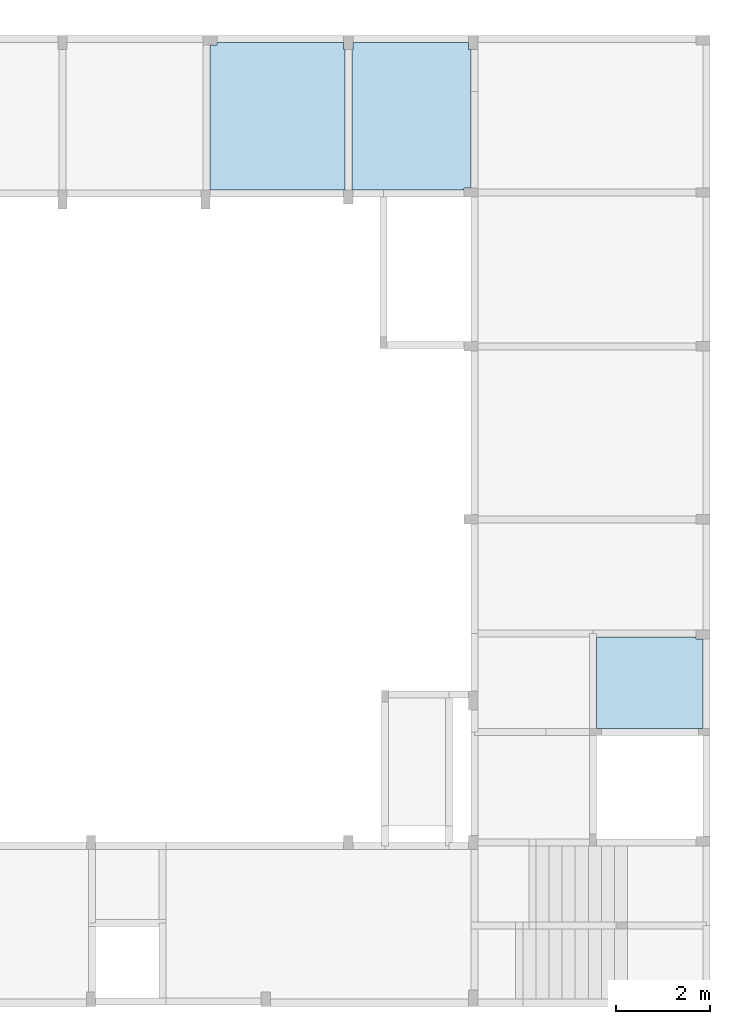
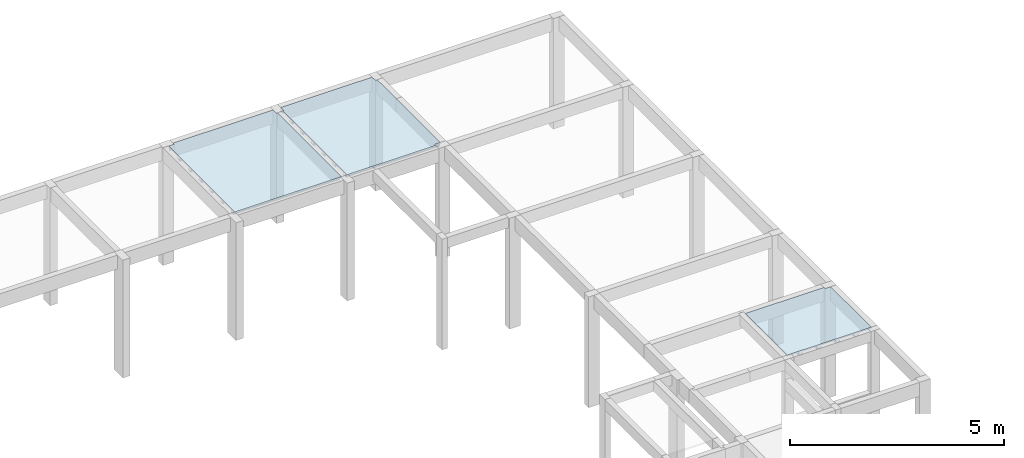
# One storey, part 8 of 11: 3 slabs.
"""IFC4 building model written with IfcOpenShell, lengths in centimetres."""

from ifc_helpers import new_model, si_unit, derived_unit, frame, origin_with_axes, place, context, project, spatial, polyline, outline, extrude, faceted_brep, material, element, save


model = new_model("IFC4")

# Units and contexts
model_context = context("Model", 3, precision=1e-05, world=origin_with_axes(), identifier="Body")
ifc_project = project(units=[si_unit("LENGTHUNIT", "METRE", prefix="CENTI"), si_unit("VOLUMEUNIT", "CUBIC_METRE"), si_unit("AREAUNIT", "SQUARE_METRE"), si_unit("POWERUNIT", "WATT"), si_unit("LUMINOUSFLUXUNIT", "LUMEN"), si_unit("ELECTRICCURRENTUNIT", "AMPERE"), si_unit("PRESSUREUNIT", "PASCAL", prefix="KILO"), si_unit("MASSUNIT", "GRAM", prefix="KILO"), si_unit("PLANEANGLEUNIT", "RADIAN"), derived_unit("VOLUMETRICFLOWRATEUNIT", [(si_unit("LENGTHUNIT", "METRE"), 3), (si_unit("TIMEUNIT", "SECOND"), -1)])], contexts=[model_context])

# Site, building, storey
site_placement = place(None, origin_with_axes())
site = spatial("IfcSite", under=ifc_project, at=site_placement)
building_placement = place(site_placement, frame((0.0, 0.0, -295.0)))
building = spatial("IfcBuilding", under=site, at=building_placement)
placement_1 = place(building_placement, origin_with_axes())
placement_2 = place(placement_1, frame((0.0, 0.0, 101.0), z_axis=(0.0, 0.0, 1.0), x_axis=(1.0, 0.0, 0.0)))
placement_3 = place(placement_2, frame((0.0, 0.0, 204.0), z_axis=(0.0, 0.0, 1.0), x_axis=(1.0, 0.0, 0.0)))
storey_placement = place(placement_3, frame((0.0, 0.0, 292.0), z_axis=(0.0, 0.0, 1.0), x_axis=(1.0, 0.0, 0.0)))
storey = spatial("IfcBuildingStorey", under=building, at=storey_placement, Name="PAVTO 01", CompositionType="ELEMENT", Elevation=302.0)

# Slabs
ifc_material = material(Name="Concreto")
slab_1_placement = place(storey_placement, frame((3092.255, -5277.085, 0.0), z_axis=(0.0, 0.0, 1.0), x_axis=(1.0, 0.0, 0.0)))
element("IfcSlab", 1, at=slab_1_placement, inside=storey, material=ifc_material, Name="L103", PredefinedType="FLOOR", context=model_context, shape_type="SolidModel", body=[
    extrude(outline(polyline([(143.974, 142.534), (141.475, 142.534), (141.475, 157.534), (-128.975, 157.534), (-128.974, 152.534), (-143.975, 152.534), (-143.974, -157.534), (143.975, -157.534), (143.974, 142.534), (143.974, 142.534)])), frame((0.0, 0.0, -4.0), z_axis=(0.0, 0.0, 1.0), x_axis=(1.0, 0.0, 0.0)), (0.0, 0.0, 1.0), 4.0),
    faceted_brep([(-143.9745, -140.0, -12.0), (143.9745, -140.0, -12.0), (143.9745, -150.0, -12.0), (-143.9745, -150.0, -12.0), (-143.9745, -150.0, -4.0), (143.9745, -150.0, -4.0), (143.9745, -140.0, -4.0), (-143.9745, -140.0, -4.0)], [[[0, 1, 2, 3]], [[4, 5, 6, 7]], [[4, 3, 5]], [[3, 2, 5]], [[5, 2, 6]], [[2, 1, 6]], [[6, 1, 7]], [[1, 0, 7]], [[7, 0, 4]], [[0, 3, 4]]]),
    faceted_brep([(-143.9745, -138.5, -12.0), (143.9745, -138.5, -12.0), (143.9745, -140.0, -12.0), (-143.9745, -140.0, -12.0), (-143.9745, -140.0, -9.0), (143.9745, -140.0, -9.0), (143.9745, -138.5, -9.0), (-143.9745, -138.5, -9.0)], [[[0, 1, 2, 3]], [[4, 5, 6, 7]], [[4, 3, 5]], [[3, 2, 5]], [[5, 2, 6]], [[2, 1, 6]], [[6, 1, 7]], [[1, 0, 7]], [[7, 0, 4]], [[0, 3, 4]]]),
    faceted_brep([(-143.9745, -150.0, -12.0), (143.9745, -150.0, -12.0), (143.9745, -151.5, -12.0), (-143.9745, -151.5, -12.0), (-143.9745, -151.5, -9.0), (143.9745, -151.5, -9.0), (143.9745, -150.0, -9.0), (-143.9745, -150.0, -9.0)], [[[0, 1, 2, 3]], [[4, 5, 6, 7]], [[4, 3, 5]], [[3, 2, 5]], [[5, 2, 6]], [[2, 1, 6]], [[6, 1, 7]], [[1, 0, 7]], [[7, 0, 4]], [[0, 3, 4]]]),
    faceted_brep([(-143.9745, -90.0, -12.0), (143.9745, -90.0, -12.0), (143.9745, -100.0, -12.0), (-143.9745, -100.0, -12.0), (-143.9745, -100.0, -4.0), (143.9745, -100.0, -4.0), (143.9745, -90.0, -4.0), (-143.9745, -90.0, -4.0)], [[[0, 1, 2, 3]], [[4, 5, 6, 7]], [[4, 3, 5]], [[3, 2, 5]], [[5, 2, 6]], [[2, 1, 6]], [[6, 1, 7]], [[1, 0, 7]], [[7, 0, 4]], [[0, 3, 4]]]),
    faceted_brep([(-143.9745, -88.5, -12.0), (143.9745, -88.5, -12.0), (143.9745, -90.0, -12.0), (-143.9745, -90.0, -12.0), (-143.9745, -90.0, -9.0), (143.9745, -90.0, -9.0), (143.9745, -88.5, -9.0), (-143.9745, -88.5, -9.0)], [[[0, 1, 2, 3]], [[4, 5, 6, 7]], [[4, 3, 5]], [[3, 2, 5]], [[5, 2, 6]], [[2, 1, 6]], [[6, 1, 7]], [[1, 0, 7]], [[7, 0, 4]], [[0, 3, 4]]]),
    faceted_brep([(-143.9745, -100.0, -12.0), (143.9745, -100.0, -12.0), (143.9745, -101.5, -12.0), (-143.9745, -101.5, -12.0), (-143.9745, -101.5, -9.0), (143.9745, -101.5, -9.0), (143.9745, -100.0, -9.0), (-143.9745, -100.0, -9.0)], [[[0, 1, 2, 3]], [[4, 5, 6, 7]], [[4, 3, 5]], [[3, 2, 5]], [[5, 2, 6]], [[2, 1, 6]], [[6, 1, 7]], [[1, 0, 7]], [[7, 0, 4]], [[0, 3, 4]]]),
    faceted_brep([(-143.9745, -40.0, -12.0), (143.9745, -40.0, -12.0), (143.9745, -50.0, -12.0), (-143.9745, -50.0, -12.0), (-143.9745, -50.0, -4.0), (143.9745, -50.0, -4.0), (143.9745, -40.0, -4.0), (-143.9745, -40.0, -4.0)], [[[0, 1, 2, 3]], [[4, 5, 6, 7]], [[4, 3, 5]], [[3, 2, 5]], [[5, 2, 6]], [[2, 1, 6]], [[6, 1, 7]], [[1, 0, 7]], [[7, 0, 4]], [[0, 3, 4]]]),
    faceted_brep([(-143.9745, -38.5, -12.0), (143.9745, -38.5, -12.0), (143.9745, -40.0, -12.0), (-143.9745, -40.0, -12.0), (-143.9745, -40.0, -9.0), (143.9745, -40.0, -9.0), (143.9745, -38.5, -9.0), (-143.9745, -38.5, -9.0)], [[[0, 1, 2, 3]], [[4, 5, 6, 7]], [[4, 3, 5]], [[3, 2, 5]], [[5, 2, 6]], [[2, 1, 6]], [[6, 1, 7]], [[1, 0, 7]], [[7, 0, 4]], [[0, 3, 4]]]),
    faceted_brep([(-143.9745, -50.0, -12.0), (143.9745, -50.0, -12.0), (143.9745, -51.5, -12.0), (-143.9745, -51.5, -12.0), (-143.9745, -51.5, -9.0), (143.9745, -51.5, -9.0), (143.9745, -50.0, -9.0), (-143.9745, -50.0, -9.0)], [[[0, 1, 2, 3]], [[4, 5, 6, 7]], [[4, 3, 5]], [[3, 2, 5]], [[5, 2, 6]], [[2, 1, 6]], [[6, 1, 7]], [[1, 0, 7]], [[7, 0, 4]], [[0, 3, 4]]]),
    faceted_brep([(-143.9745, 10.0, -12.0), (143.9745, 10.0, -12.0), (143.9745, 0.0, -12.0), (-143.9745, 0.0, -12.0), (-143.9745, 0.0, -4.0), (143.9745, 0.0, -4.0), (143.9745, 10.0, -4.0), (-143.9745, 10.0, -4.0)], [[[0, 1, 2, 3]], [[4, 5, 6, 7]], [[4, 3, 5]], [[3, 2, 5]], [[5, 2, 6]], [[2, 1, 6]], [[6, 1, 7]], [[1, 0, 7]], [[7, 0, 4]], [[0, 3, 4]]]),
    faceted_brep([(-143.9745, 11.5, -12.0), (143.9745, 11.5, -12.0), (143.9745, 10.0, -12.0), (-143.9745, 10.0, -12.0), (-143.9745, 10.0, -9.0), (143.9745, 10.0, -9.0), (143.9745, 11.5, -9.0), (-143.9745, 11.5, -9.0)], [[[0, 1, 2, 3]], [[4, 5, 6, 7]], [[4, 3, 5]], [[3, 2, 5]], [[5, 2, 6]], [[2, 1, 6]], [[6, 1, 7]], [[1, 0, 7]], [[7, 0, 4]], [[0, 3, 4]]]),
    faceted_brep([(-143.9745, 0.0, -12.0), (143.9745, 0.0, -12.0), (143.9745, -1.5, -12.0), (-143.9745, -1.5, -12.0), (-143.9745, -1.5, -9.0), (143.9745, -1.5, -9.0), (143.9745, 0.0, -9.0), (-143.9745, 0.0, -9.0)], [[[0, 1, 2, 3]], [[4, 5, 6, 7]], [[4, 3, 5]], [[3, 2, 5]], [[5, 2, 6]], [[2, 1, 6]], [[6, 1, 7]], [[1, 0, 7]], [[7, 0, 4]], [[0, 3, 4]]]),
    faceted_brep([(-143.9745, 60.0, -12.0), (143.9745, 60.0, -12.0), (143.9745, 50.0, -12.0), (-143.9745, 50.0, -12.0), (-143.9745, 50.0, -4.0), (143.9745, 50.0, -4.0), (143.9745, 60.0, -4.0), (-143.9745, 60.0, -4.0)], [[[0, 1, 2, 3]], [[4, 5, 6, 7]], [[4, 3, 5]], [[3, 2, 5]], [[5, 2, 6]], [[2, 1, 6]], [[6, 1, 7]], [[1, 0, 7]], [[7, 0, 4]], [[0, 3, 4]]]),
    faceted_brep([(-143.9745, 61.5, -12.0), (143.9745, 61.5, -12.0), (143.9745, 60.0, -12.0), (-143.9745, 60.0, -12.0), (-143.9745, 60.0, -9.0), (143.9745, 60.0, -9.0), (143.9745, 61.5, -9.0), (-143.9745, 61.5, -9.0)], [[[0, 1, 2, 3]], [[4, 5, 6, 7]], [[4, 3, 5]], [[3, 2, 5]], [[5, 2, 6]], [[2, 1, 6]], [[6, 1, 7]], [[1, 0, 7]], [[7, 0, 4]], [[0, 3, 4]]]),
    faceted_brep([(-143.9745, 50.0, -12.0), (143.9745, 50.0, -12.0), (143.9745, 48.5, -12.0), (-143.9745, 48.5, -12.0), (-143.9745, 48.5, -9.0), (143.9745, 48.5, -9.0), (143.9745, 50.0, -9.0), (-143.9745, 50.0, -9.0)], [[[0, 1, 2, 3]], [[4, 5, 6, 7]], [[4, 3, 5]], [[3, 2, 5]], [[5, 2, 6]], [[2, 1, 6]], [[6, 1, 7]], [[1, 0, 7]], [[7, 0, 4]], [[0, 3, 4]]]),
    faceted_brep([(-143.9745, 110.0, -12.0), (143.9745, 110.0, -12.0), (143.9745, 100.0, -12.0), (-143.9745, 100.0, -12.0), (-143.9745, 100.0, -4.0), (143.9745, 100.0, -4.0), (143.9745, 110.0, -4.0), (-143.9745, 110.0, -4.0)], [[[0, 1, 2, 3]], [[4, 5, 6, 7]], [[4, 3, 5]], [[3, 2, 5]], [[5, 2, 6]], [[2, 1, 6]], [[6, 1, 7]], [[1, 0, 7]], [[7, 0, 4]], [[0, 3, 4]]]),
    faceted_brep([(-143.9745, 111.5, -12.0), (143.9745, 111.5, -12.0), (143.9745, 110.0, -12.0), (-143.9745, 110.0, -12.0), (-143.9745, 110.0, -9.0), (143.9745, 110.0, -9.0), (143.9745, 111.5, -9.0), (-143.9745, 111.5, -9.0)], [[[0, 1, 2, 3]], [[4, 5, 6, 7]], [[4, 3, 5]], [[3, 2, 5]], [[5, 2, 6]], [[2, 1, 6]], [[6, 1, 7]], [[1, 0, 7]], [[7, 0, 4]], [[0, 3, 4]]]),
    faceted_brep([(-143.9745, 100.0, -12.0), (143.9745, 100.0, -12.0), (143.9745, 98.5, -12.0), (-143.9745, 98.5, -12.0), (-143.9745, 98.5, -9.0), (143.9745, 98.5, -9.0), (143.9745, 100.0, -9.0), (-143.9745, 100.0, -9.0)], [[[0, 1, 2, 3]], [[4, 5, 6, 7]], [[4, 3, 5]], [[3, 2, 5]], [[5, 2, 6]], [[2, 1, 6]], [[6, 1, 7]], [[1, 0, 7]], [[7, 0, 4]], [[0, 3, 4]]]),
    faceted_brep([(-128.9745, 157.534, -12.0), (141.475, 157.534, -12.0), (141.475, 150.0, -12.0), (-143.9745, 150.0, -12.0), (-143.9745, 150.0, -4.0), (141.475, 150.0, -4.0), (141.475, 157.534, -4.0), (-128.9745, 157.534, -4.0)], [[[0, 1, 2, 3]], [[4, 5, 6, 7]], [[4, 3, 5]], [[3, 2, 5]], [[5, 2, 6]], [[2, 1, 6]], [[6, 1, 7]], [[1, 0, 7]], [[7, 0, 4]], [[0, 3, 4]]]),
    faceted_brep([(-143.9745, 150.0, -12.0), (141.475, 150.0, -12.0), (141.475, 148.5, -12.0), (-143.9745, 148.5, -12.0), (-143.9745, 148.5, -9.0), (141.475, 148.5, -9.0), (141.475, 150.0, -9.0), (-143.9745, 150.0, -9.0)], [[[0, 1, 2, 3]], [[4, 5, 6, 7]], [[4, 3, 5]], [[3, 2, 5]], [[5, 2, 6]], [[2, 1, 6]], [[6, 1, 7]], [[1, 0, 7]], [[7, 0, 4]], [[0, 3, 4]]]),
])
slab_2_placement = place(storey_placement, frame((3378.48, -5277.1205, 0.0), z_axis=(0.0, 0.0, 1.0), x_axis=(1.0, 0.0, 0.0)))
element("IfcSlab", 2, at=slab_2_placement, inside=storey, material=ifc_material, Name="L104", PredefinedType="FLOOR", context=model_context, shape_type="SolidModel", body=[
    extrude(outline(polyline([(112.23, -152.569), (127.249, -152.569), (127.25, 142.569), (122.25, 142.569), (122.25, 157.569), (-124.749, 157.569), (-124.749, 142.569), (-127.25, 142.569), (-127.249, -157.499), (-124.749, -157.499), (-59.079, -157.569), (112.229, -157.57), (112.23, -152.569), (112.23, -152.569)])), frame((0.0, 0.0005, -4.0), z_axis=(0.0, 0.0, 1.0), x_axis=(1.0, 0.0, 0.0)), (0.0, 0.0, 1.0), 4.0),
    faceted_brep([(-127.2495, -139.9995, -12.0), (127.2495, -139.9995, -12.0), (127.2495, -149.9995, -12.0), (-127.2495, -149.9995, -12.0), (-127.2495, -149.9995, -4.0), (127.2495, -149.9995, -4.0), (127.2495, -139.9995, -4.0), (-127.2495, -139.9995, -4.0)], [[[0, 1, 2, 3]], [[4, 5, 6, 7]], [[4, 3, 5]], [[3, 2, 5]], [[5, 2, 6]], [[2, 1, 6]], [[6, 1, 7]], [[1, 0, 7]], [[7, 0, 4]], [[0, 3, 4]]]),
    faceted_brep([(-127.2495, -138.4995, -12.0), (127.2495, -138.4995, -12.0), (127.2495, -139.9995, -12.0), (-127.2495, -139.9995, -12.0), (-127.2495, -139.9995, -9.0), (127.2495, -139.9995, -9.0), (127.2495, -138.4995, -9.0), (-127.2495, -138.4995, -9.0)], [[[0, 1, 2, 3]], [[4, 5, 6, 7]], [[4, 3, 5]], [[3, 2, 5]], [[5, 2, 6]], [[2, 1, 6]], [[6, 1, 7]], [[1, 0, 7]], [[7, 0, 4]], [[0, 3, 4]]]),
    faceted_brep([(-127.2495, -149.9995, -12.0), (127.2495, -149.9995, -12.0), (127.2495, -151.4995, -12.0), (-127.2495, -151.4995, -12.0), (-127.2495, -151.4995, -9.0), (127.2495, -151.4995, -9.0), (127.2495, -149.9995, -9.0), (-127.2495, -149.9995, -9.0)], [[[0, 1, 2, 3]], [[4, 5, 6, 7]], [[4, 3, 5]], [[3, 2, 5]], [[5, 2, 6]], [[2, 1, 6]], [[6, 1, 7]], [[1, 0, 7]], [[7, 0, 4]], [[0, 3, 4]]]),
    faceted_brep([(-127.2495, -89.9995, -12.0), (127.2495, -89.9995, -12.0), (127.2495, -99.9995, -12.0), (-127.2495, -99.9995, -12.0), (-127.2495, -99.9995, -4.0), (127.2495, -99.9995, -4.0), (127.2495, -89.9995, -4.0), (-127.2495, -89.9995, -4.0)], [[[0, 1, 2, 3]], [[4, 5, 6, 7]], [[4, 3, 5]], [[3, 2, 5]], [[5, 2, 6]], [[2, 1, 6]], [[6, 1, 7]], [[1, 0, 7]], [[7, 0, 4]], [[0, 3, 4]]]),
    faceted_brep([(-127.2495, -88.4995, -12.0), (127.2495, -88.4995, -12.0), (127.2495, -89.9995, -12.0), (-127.2495, -89.9995, -12.0), (-127.2495, -89.9995, -9.0), (127.2495, -89.9995, -9.0), (127.2495, -88.4995, -9.0), (-127.2495, -88.4995, -9.0)], [[[0, 1, 2, 3]], [[4, 5, 6, 7]], [[4, 3, 5]], [[3, 2, 5]], [[5, 2, 6]], [[2, 1, 6]], [[6, 1, 7]], [[1, 0, 7]], [[7, 0, 4]], [[0, 3, 4]]]),
    faceted_brep([(-127.2495, -99.9995, -12.0), (127.2495, -99.9995, -12.0), (127.2495, -101.4995, -12.0), (-127.2495, -101.4995, -12.0), (-127.2495, -101.4995, -9.0), (127.2495, -101.4995, -9.0), (127.2495, -99.9995, -9.0), (-127.2495, -99.9995, -9.0)], [[[0, 1, 2, 3]], [[4, 5, 6, 7]], [[4, 3, 5]], [[3, 2, 5]], [[5, 2, 6]], [[2, 1, 6]], [[6, 1, 7]], [[1, 0, 7]], [[7, 0, 4]], [[0, 3, 4]]]),
    faceted_brep([(-127.2495, -39.9995, -12.0), (127.2495, -39.9995, -12.0), (127.2495, -49.9995, -12.0), (-127.2495, -49.9995, -12.0), (-127.2495, -49.9995, -4.0), (127.2495, -49.9995, -4.0), (127.2495, -39.9995, -4.0), (-127.2495, -39.9995, -4.0)], [[[0, 1, 2, 3]], [[4, 5, 6, 7]], [[4, 3, 5]], [[3, 2, 5]], [[5, 2, 6]], [[2, 1, 6]], [[6, 1, 7]], [[1, 0, 7]], [[7, 0, 4]], [[0, 3, 4]]]),
    faceted_brep([(-127.2495, -38.4995, -12.0), (127.2495, -38.4995, -12.0), (127.2495, -39.9995, -12.0), (-127.2495, -39.9995, -12.0), (-127.2495, -39.9995, -9.0), (127.2495, -39.9995, -9.0), (127.2495, -38.4995, -9.0), (-127.2495, -38.4995, -9.0)], [[[0, 1, 2, 3]], [[4, 5, 6, 7]], [[4, 3, 5]], [[3, 2, 5]], [[5, 2, 6]], [[2, 1, 6]], [[6, 1, 7]], [[1, 0, 7]], [[7, 0, 4]], [[0, 3, 4]]]),
    faceted_brep([(-127.2495, -49.9995, -12.0), (127.2495, -49.9995, -12.0), (127.2495, -51.4995, -12.0), (-127.2495, -51.4995, -12.0), (-127.2495, -51.4995, -9.0), (127.2495, -51.4995, -9.0), (127.2495, -49.9995, -9.0), (-127.2495, -49.9995, -9.0)], [[[0, 1, 2, 3]], [[4, 5, 6, 7]], [[4, 3, 5]], [[3, 2, 5]], [[5, 2, 6]], [[2, 1, 6]], [[6, 1, 7]], [[1, 0, 7]], [[7, 0, 4]], [[0, 3, 4]]]),
    faceted_brep([(-127.2495, 10.0005, -12.0), (127.2495, 10.0005, -12.0), (127.2495, 0.0005, -12.0), (-127.2495, 0.0005, -12.0), (-127.2495, 0.0005, -4.0), (127.2495, 0.0005, -4.0), (127.2495, 10.0005, -4.0), (-127.2495, 10.0005, -4.0)], [[[0, 1, 2, 3]], [[4, 5, 6, 7]], [[4, 3, 5]], [[3, 2, 5]], [[5, 2, 6]], [[2, 1, 6]], [[6, 1, 7]], [[1, 0, 7]], [[7, 0, 4]], [[0, 3, 4]]]),
    faceted_brep([(-127.2495, 11.5005, -12.0), (127.2495, 11.5005, -12.0), (127.2495, 10.0005, -12.0), (-127.2495, 10.0005, -12.0), (-127.2495, 10.0005, -9.0), (127.2495, 10.0005, -9.0), (127.2495, 11.5005, -9.0), (-127.2495, 11.5005, -9.0)], [[[0, 1, 2, 3]], [[4, 5, 6, 7]], [[4, 3, 5]], [[3, 2, 5]], [[5, 2, 6]], [[2, 1, 6]], [[6, 1, 7]], [[1, 0, 7]], [[7, 0, 4]], [[0, 3, 4]]]),
    faceted_brep([(-127.2495, 0.0005, -12.0), (127.2495, 0.0005, -12.0), (127.2495, -1.4995, -12.0), (-127.2495, -1.4995, -12.0), (-127.2495, -1.4995, -9.0), (127.2495, -1.4995, -9.0), (127.2495, 0.0005, -9.0), (-127.2495, 0.0005, -9.0)], [[[0, 1, 2, 3]], [[4, 5, 6, 7]], [[4, 3, 5]], [[3, 2, 5]], [[5, 2, 6]], [[2, 1, 6]], [[6, 1, 7]], [[1, 0, 7]], [[7, 0, 4]], [[0, 3, 4]]]),
    faceted_brep([(-127.2495, 60.0005, -12.0), (127.2495, 60.0005, -12.0), (127.2495, 50.0005, -12.0), (-127.2495, 50.0005, -12.0), (-127.2495, 50.0005, -4.0), (127.2495, 50.0005, -4.0), (127.2495, 60.0005, -4.0), (-127.2495, 60.0005, -4.0)], [[[0, 1, 2, 3]], [[4, 5, 6, 7]], [[4, 3, 5]], [[3, 2, 5]], [[5, 2, 6]], [[2, 1, 6]], [[6, 1, 7]], [[1, 0, 7]], [[7, 0, 4]], [[0, 3, 4]]]),
    faceted_brep([(-127.2495, 61.5005, -12.0), (127.2495, 61.5005, -12.0), (127.2495, 60.0005, -12.0), (-127.2495, 60.0005, -12.0), (-127.2495, 60.0005, -9.0), (127.2495, 60.0005, -9.0), (127.2495, 61.5005, -9.0), (-127.2495, 61.5005, -9.0)], [[[0, 1, 2, 3]], [[4, 5, 6, 7]], [[4, 3, 5]], [[3, 2, 5]], [[5, 2, 6]], [[2, 1, 6]], [[6, 1, 7]], [[1, 0, 7]], [[7, 0, 4]], [[0, 3, 4]]]),
    faceted_brep([(-127.2495, 50.0005, -12.0), (127.2495, 50.0005, -12.0), (127.2495, 48.5005, -12.0), (-127.2495, 48.5005, -12.0), (-127.2495, 48.5005, -9.0), (127.2495, 48.5005, -9.0), (127.2495, 50.0005, -9.0), (-127.2495, 50.0005, -9.0)], [[[0, 1, 2, 3]], [[4, 5, 6, 7]], [[4, 3, 5]], [[3, 2, 5]], [[5, 2, 6]], [[2, 1, 6]], [[6, 1, 7]], [[1, 0, 7]], [[7, 0, 4]], [[0, 3, 4]]]),
    faceted_brep([(-127.2495, 110.0005, -12.0), (127.2495, 110.0005, -12.0), (127.2495, 100.0005, -12.0), (-127.2495, 100.0005, -12.0), (-127.2495, 100.0005, -4.0), (127.2495, 100.0005, -4.0), (127.2495, 110.0005, -4.0), (-127.2495, 110.0005, -4.0)], [[[0, 1, 2, 3]], [[4, 5, 6, 7]], [[4, 3, 5]], [[3, 2, 5]], [[5, 2, 6]], [[2, 1, 6]], [[6, 1, 7]], [[1, 0, 7]], [[7, 0, 4]], [[0, 3, 4]]]),
    faceted_brep([(-127.2495, 111.5005, -12.0), (127.2495, 111.5005, -12.0), (127.2495, 110.0005, -12.0), (-127.2495, 110.0005, -12.0), (-127.2495, 110.0005, -9.0), (127.2495, 110.0005, -9.0), (127.2495, 111.5005, -9.0), (-127.2495, 111.5005, -9.0)], [[[0, 1, 2, 3]], [[4, 5, 6, 7]], [[4, 3, 5]], [[3, 2, 5]], [[5, 2, 6]], [[2, 1, 6]], [[6, 1, 7]], [[1, 0, 7]], [[7, 0, 4]], [[0, 3, 4]]]),
    faceted_brep([(-127.2495, 100.0005, -12.0), (127.2495, 100.0005, -12.0), (127.2495, 98.5005, -12.0), (-127.2495, 98.5005, -12.0), (-127.2495, 98.5005, -9.0), (127.2495, 98.5005, -9.0), (127.2495, 100.0005, -9.0), (-127.2495, 100.0005, -9.0)], [[[0, 1, 2, 3]], [[4, 5, 6, 7]], [[4, 3, 5]], [[3, 2, 5]], [[5, 2, 6]], [[2, 1, 6]], [[6, 1, 7]], [[1, 0, 7]], [[7, 0, 4]], [[0, 3, 4]]]),
    faceted_brep([(-124.749, 157.5695, -12.0), (122.25, 157.5695, -12.0), (122.25, 150.0005, -12.0), (-124.749, 150.0005, -12.0), (-124.749, 150.0005, -4.0), (122.25, 150.0005, -4.0), (122.25, 157.5695, -4.0), (-124.749, 157.5695, -4.0)], [[[0, 1, 2, 3]], [[4, 5, 6, 7]], [[4, 3, 5]], [[3, 2, 5]], [[5, 2, 6]], [[2, 1, 6]], [[6, 1, 7]], [[1, 0, 7]], [[7, 0, 4]], [[0, 3, 4]]]),
    faceted_brep([(-124.749, 150.0005, -12.0), (122.25, 150.0005, -12.0), (122.25, 148.5005, -12.0), (-124.749, 148.5005, -12.0), (-124.749, 148.5005, -9.0), (122.25, 148.5005, -9.0), (122.25, 150.0005, -9.0), (-124.749, 150.0005, -9.0)], [[[0, 1, 2, 3]], [[4, 5, 6, 7]], [[4, 3, 5]], [[3, 2, 5]], [[5, 2, 6]], [[2, 1, 6]], [[6, 1, 7]], [[1, 0, 7]], [[7, 0, 4]], [[0, 3, 4]]]),
])
slab_3_placement = place(storey_placement, frame((3888.2395, -6487.4805, 0.0), z_axis=(0.0, 0.0, 1.0), x_axis=(1.0, 0.0, 0.0)))
element("IfcSlab", 3, at=slab_3_placement, inside=storey, material=ifc_material, Name="L110", PredefinedType="FLOOR", context=model_context, shape_type="SolidModel", body=[
    extrude(outline(polyline([(113.509, 92.829), (98.52, 92.83), (98.519, 97.829), (-113.51, 97.829), (-113.51, -97.829), (113.509, -97.83), (113.509, 92.829), (113.509, 92.829)])), frame((0.0005, 0.0005, -4.0), z_axis=(0.0, 0.0, 1.0), x_axis=(1.0, 0.0, 0.0)), (0.0, 0.0, 1.0), 4.0),
    faceted_brep([(-31.9995, -97.829, -12.0), (-31.9995, 97.8295, -12.0), (-21.9995, 97.8295, -12.0), (-21.9995, -97.829, -12.0), (-21.9995, -97.829, -4.0), (-21.9995, 97.8295, -4.0), (-31.9995, 97.8295, -4.0), (-31.9995, -97.829, -4.0)], [[[0, 1, 2, 3]], [[4, 5, 6, 7]], [[4, 3, 5]], [[3, 2, 5]], [[5, 2, 6]], [[2, 1, 6]], [[6, 1, 7]], [[1, 0, 7]], [[7, 0, 4]], [[0, 3, 4]]]),
    faceted_brep([(-33.4995, -97.829, -12.0), (-33.4995, 97.8295, -12.0), (-31.9995, 97.8295, -12.0), (-31.9995, -97.829, -12.0), (-31.9995, -97.829, -9.0), (-31.9995, 97.8295, -9.0), (-33.4995, 97.8295, -9.0), (-33.4995, -97.829, -9.0)], [[[0, 1, 2, 3]], [[4, 5, 6, 7]], [[4, 3, 5]], [[3, 2, 5]], [[5, 2, 6]], [[2, 1, 6]], [[6, 1, 7]], [[1, 0, 7]], [[7, 0, 4]], [[0, 3, 4]]]),
    faceted_brep([(-21.9995, -97.829, -12.0), (-21.9995, 97.8295, -12.0), (-20.4995, 97.8295, -12.0), (-20.4995, -97.829, -12.0), (-20.4995, -97.829, -9.0), (-20.4995, 97.8295, -9.0), (-21.9995, 97.8295, -9.0), (-21.9995, -97.829, -9.0)], [[[0, 1, 2, 3]], [[4, 5, 6, 7]], [[4, 3, 5]], [[3, 2, 5]], [[5, 2, 6]], [[2, 1, 6]], [[6, 1, 7]], [[1, 0, 7]], [[7, 0, 4]], [[0, 3, 4]]]),
    faceted_brep([(-81.9995, -97.829, -12.0), (-81.9995, 97.8295, -12.0), (-71.9995, 97.8295, -12.0), (-71.9995, -97.829, -12.0), (-71.9995, -97.829, -4.0), (-71.9995, 97.8295, -4.0), (-81.9995, 97.8295, -4.0), (-81.9995, -97.829, -4.0)], [[[0, 1, 2, 3]], [[4, 5, 6, 7]], [[4, 3, 5]], [[3, 2, 5]], [[5, 2, 6]], [[2, 1, 6]], [[6, 1, 7]], [[1, 0, 7]], [[7, 0, 4]], [[0, 3, 4]]]),
    faceted_brep([(-83.4995, -97.829, -12.0), (-83.4995, 97.8295, -12.0), (-81.9995, 97.8295, -12.0), (-81.9995, -97.829, -12.0), (-81.9995, -97.829, -9.0), (-81.9995, 97.8295, -9.0), (-83.4995, 97.8295, -9.0), (-83.4995, -97.829, -9.0)], [[[0, 1, 2, 3]], [[4, 5, 6, 7]], [[4, 3, 5]], [[3, 2, 5]], [[5, 2, 6]], [[2, 1, 6]], [[6, 1, 7]], [[1, 0, 7]], [[7, 0, 4]], [[0, 3, 4]]]),
    faceted_brep([(-71.9995, -97.829, -12.0), (-71.9995, 97.8295, -12.0), (-70.4995, 97.8295, -12.0), (-70.4995, -97.829, -12.0), (-70.4995, -97.829, -9.0), (-70.4995, 97.8295, -9.0), (-71.9995, 97.8295, -9.0), (-71.9995, -97.829, -9.0)], [[[0, 1, 2, 3]], [[4, 5, 6, 7]], [[4, 3, 5]], [[3, 2, 5]], [[5, 2, 6]], [[2, 1, 6]], [[6, 1, 7]], [[1, 0, 7]], [[7, 0, 4]], [[0, 3, 4]]]),
    faceted_brep([(18.0005, -97.829, -12.0), (18.0005, 97.8295, -12.0), (28.0005, 97.8295, -12.0), (28.0005, -97.829, -12.0), (28.0005, -97.829, -4.0), (28.0005, 97.8295, -4.0), (18.0005, 97.8295, -4.0), (18.0005, -97.829, -4.0)], [[[0, 1, 2, 3]], [[4, 5, 6, 7]], [[4, 3, 5]], [[3, 2, 5]], [[5, 2, 6]], [[2, 1, 6]], [[6, 1, 7]], [[1, 0, 7]], [[7, 0, 4]], [[0, 3, 4]]]),
    faceted_brep([(16.5005, -97.829, -12.0), (16.5005, 97.8295, -12.0), (18.0005, 97.8295, -12.0), (18.0005, -97.829, -12.0), (18.0005, -97.829, -9.0), (18.0005, 97.8295, -9.0), (16.5005, 97.8295, -9.0), (16.5005, -97.829, -9.0)], [[[0, 1, 2, 3]], [[4, 5, 6, 7]], [[4, 3, 5]], [[3, 2, 5]], [[5, 2, 6]], [[2, 1, 6]], [[6, 1, 7]], [[1, 0, 7]], [[7, 0, 4]], [[0, 3, 4]]]),
    faceted_brep([(28.0005, -97.829, -12.0), (28.0005, 97.8295, -12.0), (29.5005, 97.8295, -12.0), (29.5005, -97.829, -12.0), (29.5005, -97.829, -9.0), (29.5005, 97.8295, -9.0), (28.0005, 97.8295, -9.0), (28.0005, -97.829, -9.0)], [[[0, 1, 2, 3]], [[4, 5, 6, 7]], [[4, 3, 5]], [[3, 2, 5]], [[5, 2, 6]], [[2, 1, 6]], [[6, 1, 7]], [[1, 0, 7]], [[7, 0, 4]], [[0, 3, 4]]]),
    faceted_brep([(68.0005, -97.829, -12.0), (68.0005, 97.8295, -12.0), (78.0005, 97.8295, -12.0), (78.0005, -97.829, -12.0), (78.0005, -97.829, -4.0), (78.0005, 97.8295, -4.0), (68.0005, 97.8295, -4.0), (68.0005, -97.829, -4.0)], [[[0, 1, 2, 3]], [[4, 5, 6, 7]], [[4, 3, 5]], [[3, 2, 5]], [[5, 2, 6]], [[2, 1, 6]], [[6, 1, 7]], [[1, 0, 7]], [[7, 0, 4]], [[0, 3, 4]]]),
    faceted_brep([(66.5005, -97.829, -12.0), (66.5005, 97.8295, -12.0), (68.0005, 97.8295, -12.0), (68.0005, -97.829, -12.0), (68.0005, -97.829, -9.0), (68.0005, 97.8295, -9.0), (66.5005, 97.8295, -9.0), (66.5005, -97.829, -9.0)], [[[0, 1, 2, 3]], [[4, 5, 6, 7]], [[4, 3, 5]], [[3, 2, 5]], [[5, 2, 6]], [[2, 1, 6]], [[6, 1, 7]], [[1, 0, 7]], [[7, 0, 4]], [[0, 3, 4]]]),
    faceted_brep([(78.0005, -97.829, -12.0), (78.0005, 97.8295, -12.0), (79.5005, 97.8295, -12.0), (79.5005, -97.829, -12.0), (79.5005, -97.829, -9.0), (79.5005, 97.8295, -9.0), (78.0005, 97.8295, -9.0), (78.0005, -97.829, -9.0)], [[[0, 1, 2, 3]], [[4, 5, 6, 7]], [[4, 3, 5]], [[3, 2, 5]], [[5, 2, 6]], [[2, 1, 6]], [[6, 1, 7]], [[1, 0, 7]], [[7, 0, 4]], [[0, 3, 4]]]),
])

save(model, "model.ifc")
